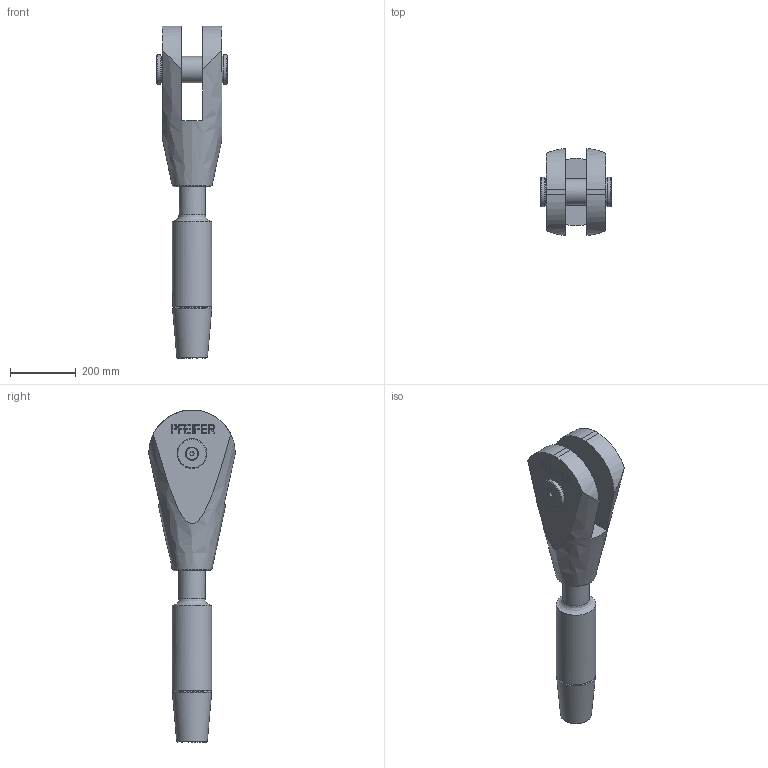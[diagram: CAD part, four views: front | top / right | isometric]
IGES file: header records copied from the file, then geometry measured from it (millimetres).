
Global section: file name: 520-080-GAK-ADA; native system: Autodesk Inventor 2016; preprocessor: unknown; author: Administrator; date: 20200703.131429; units: centimetre
Bounding box: 216 x 263.44 x 1010.19 mm (x, y, z)
Volume: 15701980.8 mm3; surface area: 742556.8 mm2
Topology: 2 solids, 4 shells, 192 faces, 505 edges, 338 vertices
Faces by surface type: bspline 192
